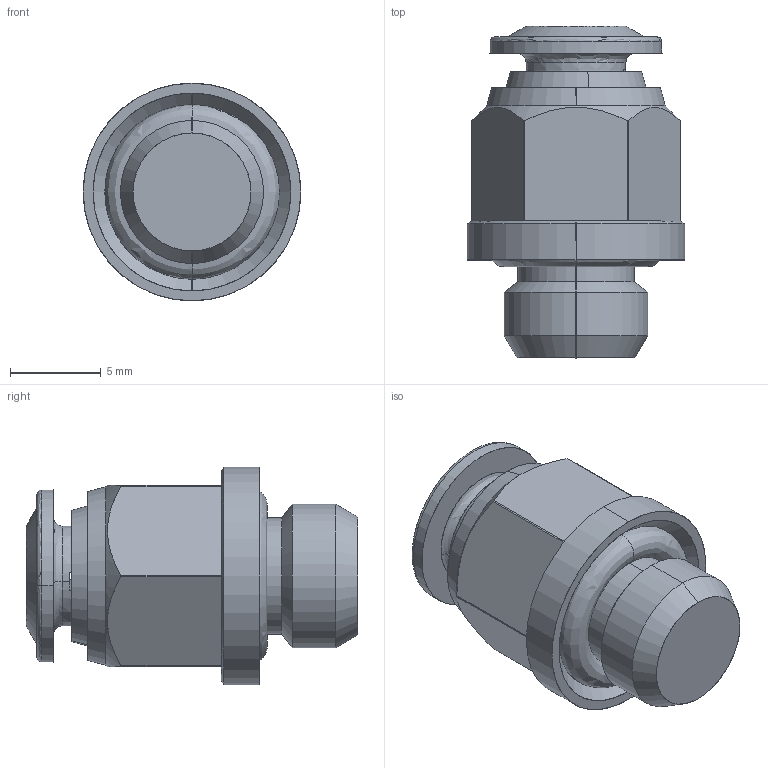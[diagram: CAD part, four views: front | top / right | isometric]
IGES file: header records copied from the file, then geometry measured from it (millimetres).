
Start section: SolidWorks IGES file using analytic representation for surfaces
Global section: file name: K:\Disegni Esecutivi\SERIE 57000\ASSIEMI_57000\57020\Assiemi STEP\5702000044.IGS; native system: SolidWorks 2016; preprocessor: SolidWorks 2016; author: cad08; date: 200907.094428; units: millimetre
Bounding box: 12 x 18.3 x 12 mm (x, y, z)
Surface area: 903.6 mm2 (no closed solid volume)
Topology: 0 solids, 0 shells, 59 faces, 788 edges, 788 vertices
Faces by surface type: revolution 30, bspline 29
